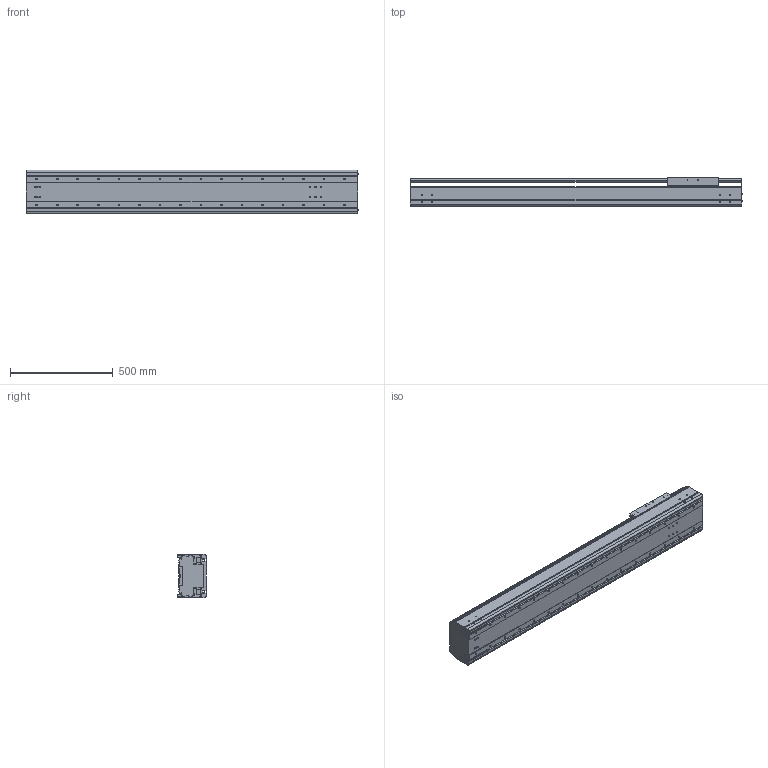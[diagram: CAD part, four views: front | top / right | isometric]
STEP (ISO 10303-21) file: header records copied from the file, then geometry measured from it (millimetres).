
FILE_DESCRIPTION((''),'2;1');
FILE_NAME('BE60G-ST-M_N-C0_IGS_PRT','2017-06-18T',(' '),(''),'PRO/ENGINEER BY PARAMETRIC TECHNOLOGY CORPORATION, 2015030','PRO/ENGINEER BY PARAMETRIC TECHNOLOGY CORPORATION, 2015030','');
FILE_SCHEMA(('CONFIG_CONTROL_DESIGN'));
Length unit declared in the file: millimetre
Products named in the file (1): BE60G-ST-M_N-C0_IGS_PRT
Bounding box: 1617.4 x 140 x 214 mm (x, y, z)
Volume: 12786650.6 mm3; surface area: 3413529.1 mm2
Topology: 2 solids, 152 shells, 1626 faces, 4550 edges, 2989 vertices
Faces by surface type: cylinder 840, plane 622, cone 116, sphere 24, torus 24
Entity records: 54406 total; most frequent: CARTESIAN_POINT 12410, DIRECTION 8816, ORIENTED_EDGE 8280, EDGE_CURVE 4436, AXIS2_PLACEMENT_3D 3293, VERTEX_POINT 2988, VECTOR 2230, LINE 2230
